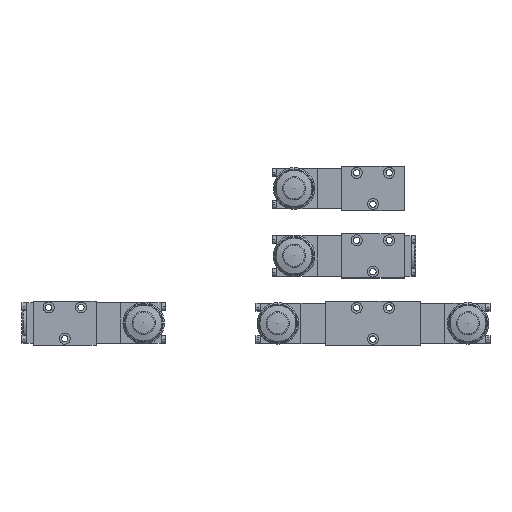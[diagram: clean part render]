
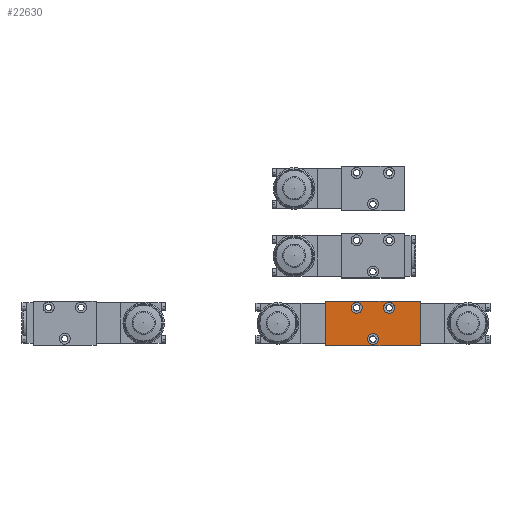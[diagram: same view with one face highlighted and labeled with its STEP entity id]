
A CAD part, top view. The second image highlights one B-rep face of the part: STEP entity #22630.
In plain terms, the highlighted planar face has unit normal (0, 0, 1).
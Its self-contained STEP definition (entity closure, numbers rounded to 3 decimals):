
#22630=ADVANCED_FACE('', (#22640,#22650,#22660,#22670), #22680, .T.);
#71380=AXIS2_PLACEMENT_3D('Ax2Pl3d', #71390, #71400, #71410);
#71420=AXIS2_PLACEMENT_3D('Ax2Pl3d', #71430, #71440, #71450);
#71460=AXIS2_PLACEMENT_3D('Ax2Pl3d', #71470, #71480, #71490);
#71500=AXIS2_PLACEMENT_3D('Ax2Pl3d', #71510, #71520, #71530);
#137180=CARTESIAN_POINT('', (82.,38.,38.));
#137190=CARTESIAN_POINT('', (82.,38.,38.));
#137200=CARTESIAN_POINT('', (82.,0.,38.));
#137310=CARTESIAN_POINT('', (0.,0.,38.));
#137320=CARTESIAN_POINT('', (0.,0.,38.));
#137330=CARTESIAN_POINT('', (0.,38.,38.));
#71390=CARTESIAN_POINT('HicPkt', (41.,5.5,38.));
#137410=CARTESIAN_POINT('', (41.,10.25,38.));
#71430=CARTESIAN_POINT('HicPkt', (0.,38.,38.));
#137420=CARTESIAN_POINT('', (82.,0.,38.));
#137430=CARTESIAN_POINT('', (0.,38.,38.));
#71470=CARTESIAN_POINT('HicPkt', (55.,32.5,38.));
#137440=CARTESIAN_POINT('', (55.,37.25,38.));
#71510=CARTESIAN_POINT('HicPkt', (27.,32.5,38.));
#137450=CARTESIAN_POINT('', (27.,37.25,38.));
#145530=CIRCLE('Circle', #71380, 4.75);
#145540=CIRCLE('Circle', #71460, 4.75);
#145550=CIRCLE('Circle', #71500, 4.75);
#154610=DIRECTION('', (0.,1.,0.));
#154640=DIRECTION('', (0.,-1.,0.));
#71400=DIRECTION('Axis', (0.,0.,1.));
#71410=DIRECTION('RefDirection', (1.,0.,0.));
#71440=DIRECTION('Axis', (0.,0.,1.));
#71450=DIRECTION('RefDirection', (1.,0.,0.));
#154660=DIRECTION('', (1.,0.,0.));
#154670=DIRECTION('', (-1.,0.,0.));
#71480=DIRECTION('Axis', (0.,0.,1.));
#71490=DIRECTION('RefDirection', (1.,0.,0.));
#71520=DIRECTION('Axis', (0.,0.,1.));
#71530=DIRECTION('RefDirection', (1.,0.,0.));
#177610=EDGE_CURVE('', #177620, #177590, #177630, .T.);
#177850=EDGE_CURVE('', #177860, #177830, #177870, .T.);
#178020=EDGE_CURVE('', #178030, #178030, #145530, .T.);
#178040=EDGE_CURVE('', #177830, #177620, #178050, .T.);
#178060=EDGE_CURVE('', #177590, #177860, #178070, .T.);
#178080=EDGE_CURVE('', #178090, #178090, #145540, .T.);
#178100=EDGE_CURVE('', #178110, #178110, #145550, .T.);
#213310=EDGE_LOOP('Edge_loop', (#213320,#213330,#213340,#213350));
#213360=EDGE_LOOP('Edge_loop', (#213370));
#213380=EDGE_LOOP('Edge_loop', (#213390));
#213400=EDGE_LOOP('Edge_loop', (#213410));
#22650=FACE_BOUND('', #213360, .T.);
#22660=FACE_BOUND('', #213380, .T.);
#22670=FACE_BOUND('', #213400, .T.);
#22640=FACE_OUTER_BOUND('Face_outer_bound', #213310, .T.);
#177630=LINE('Line', #137190, #232890);
#177870=LINE('Line', #137320, #232920);
#178050=LINE('Line', #137420, #232940);
#178070=LINE('Line', #137430, #232950);
#213320=ORIENTED_EDGE('', *, *, #177850, .T.);
#213330=ORIENTED_EDGE('', *, *, #178040, .T.);
#213340=ORIENTED_EDGE('', *, *, #177610, .T.);
#213350=ORIENTED_EDGE('', *, *, #178060, .T.);
#213370=ORIENTED_EDGE('', *, *, #178020, .F.);
#213390=ORIENTED_EDGE('', *, *, #178080, .F.);
#213410=ORIENTED_EDGE('', *, *, #178100, .F.);
#22680=PLANE('Plane', #71420);
#232890=VECTOR('', #154610, 38.);
#232920=VECTOR('', #154640, 38.);
#232940=VECTOR('', #154660, 82.);
#232950=VECTOR('', #154670, 82.);
#177590=VERTEX_POINT('', #137180);
#177620=VERTEX_POINT('', #137200);
#177830=VERTEX_POINT('', #137310);
#177860=VERTEX_POINT('', #137330);
#178030=VERTEX_POINT('', #137410);
#178090=VERTEX_POINT('', #137440);
#178110=VERTEX_POINT('', #137450);
